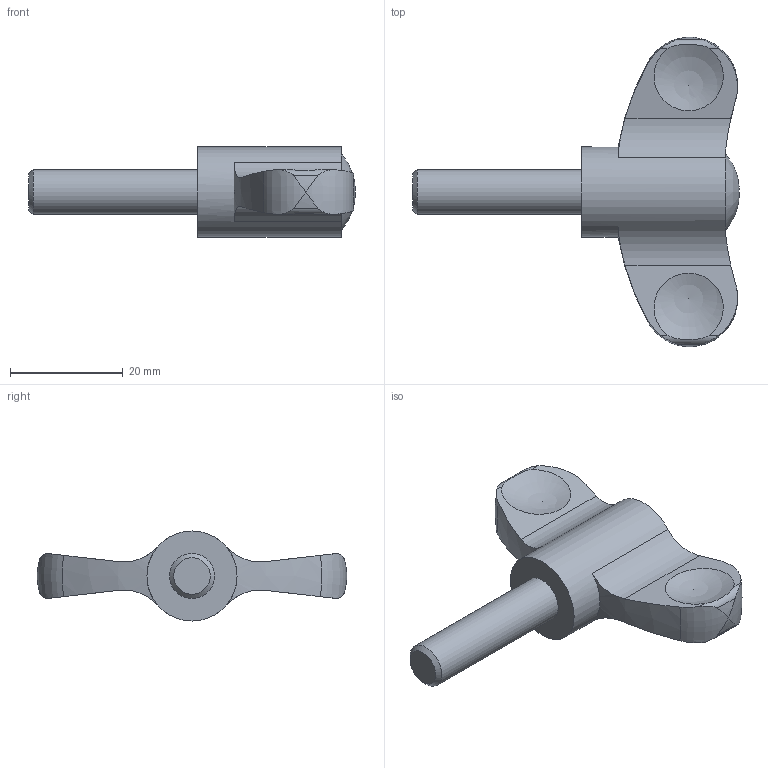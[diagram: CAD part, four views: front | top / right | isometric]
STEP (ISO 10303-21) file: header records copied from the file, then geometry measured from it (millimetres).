
FILE_DESCRIPTION( ( 'STEP AP203' ), '1' );
FILE_NAME( 'C:/Temp/Ganter_Step_05_03_2020/data/2_2/gn_633/Wing nut GN 633-55-M8-30-DGR.stp', '2020-03-05T12:20:53', ( 'License CC BY-ND 4.0' ), ( 'CADENAS' ), ' ', 'PARTsolutions', ' ' );
FILE_SCHEMA( ( 'CONFIG_CONTROL_DESIGN' ) );
Length unit declared in the file: millimetre
Products named in the file (1): _Wing nut GN 633-55-M8-30-DGR
Bounding box: 58 x 55 x 16 mm (x, y, z)
Volume: 10592.2 mm3; surface area: 4172.4 mm2
Topology: 1 solids, 1 shells, 31 faces, 97 edges, 64 vertices
Faces by surface type: cylinder 14, plane 6, bspline 4, sphere 4, torus 2, cone 1
Full cylindrical faces by diameter (mm): 8 x1, 16 x1
Entity records: 1486 total; most frequent: CARTESIAN_POINT 754, ORIENTED_EDGE 154, DIRECTION 110, EDGE_CURVE 77, VERTEX_POINT 59, AXIS2_PLACEMENT_3D 45, B_SPLINE_CURVE_WITH_KNOTS 40, EDGE_LOOP 36
